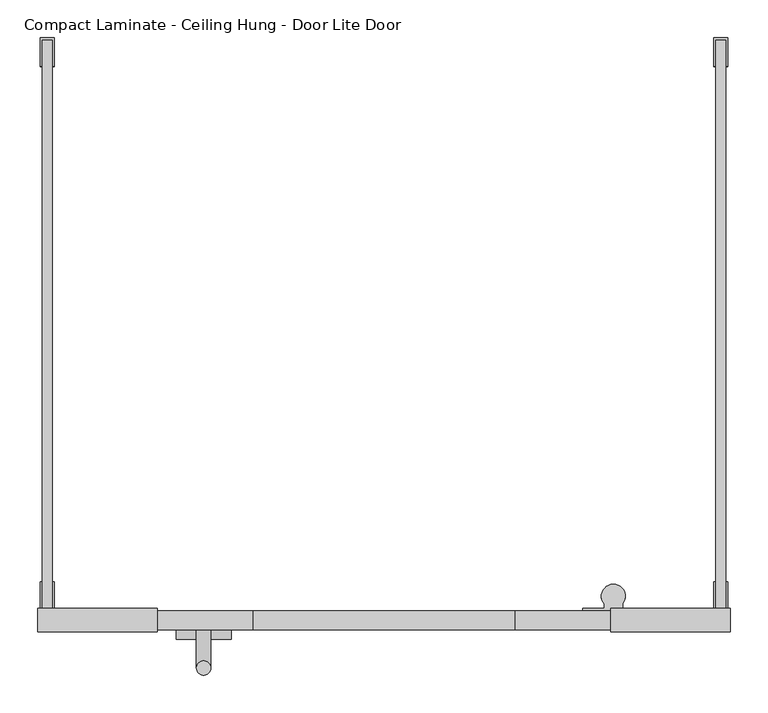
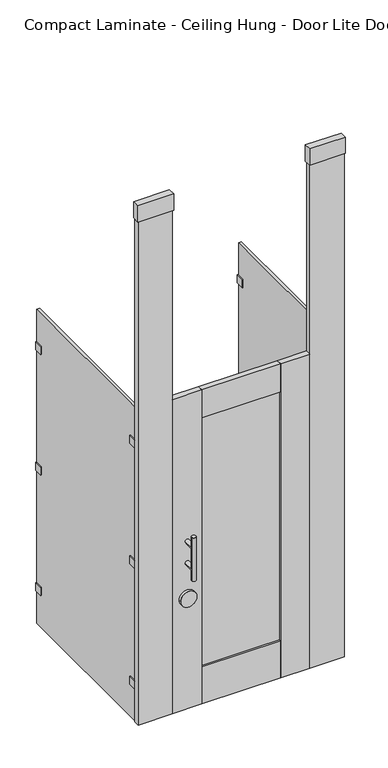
"""IFC4 building model written with IfcOpenShell, lengths in millimetres: proxy geometry, Toilet-Partition_Ironwood-Mfg_Compact-Laminate : Compact Laminate - Ceiling Hung - Door Lite Door."""

import ifcopenshell
import ifcopenshell.guid

model = None  # the IFC model being written
_history = None  # IfcOwnerHistory: only IFC2X3 demands one
_inside = {}  # id of a spatial element -> (the spatial element, [elements in it])
_under = {}  # id of a project, library or spatial element -> (it, [spatial elements below it])
_declared = {}  # id of a project -> (the project, [libraries it declares])
_typed = {}  # id of a type object -> (the type object, [elements of that type])
_made_of = {}  # id of a material, layer set ... -> (it, [elements and type objects made of it])


def new_model(schema):
    """Start an empty IFC model of exactly this schema.

    Asked for "IFC4X3", IfcOpenShell would pick the latest addendum, in which some entities
    have other attributes; the version numbers below select the first issue.
    IFC2X3 requires an IfcOwnerHistory on every rooted entity: one is made here for all.
    """
    global model, _history
    if schema == "IFC4X3":
        model = ifcopenshell.file(schema_version=(4, 3, 0, 0))
    else:
        model = ifcopenshell.file(schema=schema)
    _inside.clear()
    _under.clear()
    _declared.clear()
    _typed.clear()
    _made_of.clear()
    _history = None
    if model.schema == "IFC2X3":
        org = make("IfcOrganization", Name="unknown")
        user = make(
            "IfcPersonAndOrganization",
            ThePerson=make("IfcPerson", FamilyName="unknown"),
            TheOrganization=org,
        )
        app = make(
            "IfcApplication",
            ApplicationDeveloper=org,
            Version="unknown",
            ApplicationFullName="unknown",
            ApplicationIdentifier="unknown",
        )
        _history = make(
            "IfcOwnerHistory",
            OwningUser=user,
            OwningApplication=app,
            ChangeAction="ADDED",
            CreationDate=0,
        )
    return model


def make(cls, **values):
    """One entity of the class cls with the attributes given. An attribute that is None is left unset."""
    return model.create_entity(
        cls, **{name: value for name, value in values.items() if value is not None}
    )


def rooted(cls, **values):
    """An entity with a GlobalId (a new one), such as an element, a storey or a relation."""
    return make(cls, GlobalId=ifcopenshell.guid.new(), OwnerHistory=_history, **values)


def si_unit(unit_type, name, prefix=None):
    """IfcSIUnit, for example si_unit("LENGTHUNIT", "METRE", prefix="MILLI")."""
    return make("IfcSIUnit", UnitType=unit_type, Prefix=prefix, Name=name)


def assignment(units):
    """IfcUnitAssignment: the units of a project."""
    return None if units is None else make("IfcUnitAssignment", Units=units)


def point(xyz):
    """IfcCartesianPoint."""
    return None if xyz is None else make("IfcCartesianPoint", Coordinates=xyz)


def direction(xyz):
    """IfcDirection."""
    return None if xyz is None else make("IfcDirection", DirectionRatios=xyz)


def frame(location, z_axis=None, x_axis=None):
    """IfcAxis2Placement3D, a coordinate frame: its origin and axes. An axis left out is left unset."""
    return make(
        "IfcAxis2Placement3D",
        Location=point(location),
        Axis=direction(z_axis),
        RefDirection=direction(x_axis),
    )


def frame_2d(location, x_axis=None):
    """IfcAxis2Placement2D, a coordinate frame in the plane: its origin and x axis."""
    return make(
        "IfcAxis2Placement2D", Location=point(location), RefDirection=direction(x_axis)
    )


def origin():
    """The frame at (0, 0, 0) with its axes left unset."""
    return frame((0.0, 0.0, 0.0))


def place(relative_to, where):
    """IfcLocalPlacement: puts the frame where relative to a parent placement (None: the world)."""
    return make(
        "IfcLocalPlacement", PlacementRelTo=relative_to, RelativePlacement=where
    )


def context(
    kind, dimensions, precision=None, world=None, true_north=None, identifier=None
):
    """IfcGeometricRepresentationContext, for example the 3D "Model" context."""
    return make(
        "IfcGeometricRepresentationContext",
        ContextIdentifier=identifier,
        ContextType=kind,
        CoordinateSpaceDimension=dimensions,
        Precision=precision,
        WorldCoordinateSystem=world,
        TrueNorth=true_north,
    )


def project(units=None, contexts=None):
    """IfcProject with its units and contexts."""
    return rooted(
        "IfcProject",
        Name="project",
        RepresentationContexts=contexts,
        UnitsInContext=assignment(units),
    )


def spatial(cls, under=None, at=None, **own):
    """A site, building, storey or space (cls), placed at a placement, below another one or the project."""
    s = rooted(cls, ObjectPlacement=at, **own)
    if under is not None:
        _under.setdefault(under.id(), (under, []))[1].append(s)
    return s


def polyline(points):
    """IfcPolyline through the points."""
    return make("IfcPolyline", Points=[point(p) for p in points])


def circle_curve(where, radius):
    """IfcCircle in the frame where."""
    return make("IfcCircle", Position=where, Radius=radius)


def ellipse_curve(where, semi_axis1, semi_axis2):
    """IfcEllipse in the frame where."""
    return make(
        "IfcEllipse", Position=where, SemiAxis1=semi_axis1, SemiAxis2=semi_axis2
    )


def trimmed(basis, trim1, trim2, sense, master):
    """IfcTrimmedCurve: the piece of a basis curve between two trims."""
    return make(
        "IfcTrimmedCurve",
        BasisCurve=basis,
        Trim1=trim1,
        Trim2=trim2,
        SenseAgreement=sense,
        MasterRepresentation=master,
    )


def segment(curve, same_sense, transition):
    """IfcCompositeCurveSegment."""
    return make(
        "IfcCompositeCurveSegment",
        Transition=transition,
        SameSense=same_sense,
        ParentCurve=curve,
    )


def composite_curve(segments, self_intersect=None):
    """IfcCompositeCurve: segments joined end to end."""
    return make("IfcCompositeCurve", Segments=segments, SelfIntersect=self_intersect)


def outline(outer, holes=None, kind="AREA"):
    """IfcArbitraryClosedProfileDef: a profile drawn as a closed curve; with holes, ...WithVoids."""
    if holes is None:
        return make("IfcArbitraryClosedProfileDef", ProfileType=kind, OuterCurve=outer)
    return make(
        "IfcArbitraryProfileDefWithVoids",
        ProfileType=kind,
        OuterCurve=outer,
        InnerCurves=holes,
    )


def extrude(swept, where, along, depth):
    """IfcExtrudedAreaSolid: the profile swept, set in the frame where, extruded along a direction by depth."""
    return make(
        "IfcExtrudedAreaSolid",
        SweptArea=swept,
        Position=where,
        ExtrudedDirection=direction(along),
        Depth=depth,
    )


def shape(context_of_items, identifier, shape_type, items):
    """IfcShapeRepresentation: the items that make up one representation, for example the "Body"."""
    return make(
        "IfcShapeRepresentation",
        ContextOfItems=context_of_items,
        RepresentationIdentifier=identifier,
        RepresentationType=shape_type,
        Items=items,
    )


def source(mapping_origin, context_of_items, identifier, shape_type, items):
    """IfcRepresentationMap: a shape defined once, which mapped items show again and again."""
    return make(
        "IfcRepresentationMap",
        MappingOrigin=mapping_origin,
        MappedRepresentation=shape(context_of_items, identifier, shape_type, items),
    )


def transform(
    local_origin,
    x_axis=None,
    y_axis=None,
    z_axis=None,
    scale=None,
    scale2=None,
    scale3=None,
    uniform=True,
):
    """IfcCartesianTransformationOperator3D, or its non-uniform kind. x_axis, y_axis, z_axis: its Axis1, 2, 3."""
    if uniform:
        return make(
            "IfcCartesianTransformationOperator3D",
            Axis1=direction(x_axis),
            Axis2=direction(y_axis),
            LocalOrigin=point(local_origin),
            Scale=scale,
            Axis3=direction(z_axis),
        )
    return make(
        "IfcCartesianTransformationOperator3DnonUniform",
        Axis1=direction(x_axis),
        Axis2=direction(y_axis),
        LocalOrigin=point(local_origin),
        Scale=scale,
        Axis3=direction(z_axis),
        Scale2=scale2,
        Scale3=scale3,
    )


def mapped(mapping_source, mapping_target):
    """IfcMappedItem: shows the shape of a source again, moved by a transform."""
    return make(
        "IfcMappedItem", MappingSource=mapping_source, MappingTarget=mapping_target
    )


def made_of(thing, what):
    """Note that an element or type object is made of a material, layer set ...; save() writes the relation."""
    if what is not None:
        _made_of.setdefault(what.id(), (what, []))[1].append(thing)
    return thing


def element(
    cls,
    number,
    at=None,
    inside=None,
    cuts=None,
    type_object=None,
    material=None,
    context=None,
    identifier="Body",
    shape_type=None,
    held_by="IfcProductDefinitionShape",
    body=None,
    shapes=None,
    **own,
):
    """One element of the class cls, such as IfcWall. Its Tag is "e" and its number.

    at: its placement. inside: the storey or other place that contains it. cuts: it is an
    opening in that element (IfcRelVoidsElement). A single representation is given by context,
    identifier, shape_type and body (its items); several are given by shapes. held_by: the class
    of the entity that holds the representations. save() writes the other relations.
    """
    e = rooted(cls, Tag="e%d" % number, ObjectPlacement=at, **own)
    if body is not None:
        shapes = [shape(context, identifier, shape_type, body)]
    if shapes is not None:
        e.Representation = make(held_by, Representations=shapes)
    if inside is not None:
        _inside.setdefault(inside.id(), (inside, []))[1].append(e)
    if cuts is not None:
        rooted(
            "IfcRelVoidsElement", RelatingBuildingElement=cuts, RelatedOpeningElement=e
        )
    if type_object is not None:
        _typed.setdefault(type_object.id(), (type_object, []))[1].append(e)
    return made_of(e, material)


def aggregate(whole, parts):
    """IfcRelAggregates: a whole, such as a stair, and the parts it consists of."""
    return rooted("IfcRelAggregates", RelatingObject=whole, RelatedObjects=parts)


def save(model, path):
    """Write the relations noted so far, then the file.

    IfcRelAggregates (storeys below a building ...), IfcRelContainedInSpatialStructure (elements
    in a storey), IfcRelDefinesByType, IfcRelAssociatesMaterial and IfcRelDeclares: one each for
    every whole, place, type object, material and project.
    """
    for whole, parts in _under.values():
        aggregate(whole, parts)
    for where, things in _inside.values():
        rooted(
            "IfcRelContainedInSpatialStructure",
            RelatedElements=things,
            RelatingStructure=where,
        )
    for kind, things in _typed.values():
        rooted("IfcRelDefinesByType", RelatedObjects=things, RelatingType=kind)
    for what, things in _made_of.values():
        rooted("IfcRelAssociatesMaterial", RelatedObjects=things, RelatingMaterial=what)
    for by, libraries in _declared.values():
        rooted("IfcRelDeclares", RelatingContext=by, RelatedDefinitions=libraries)
    model.write(path)


def plane_surface(at):
    """IfcPlane: the flat surface through the origin of the frame at, square to its z axis."""
    return make("IfcPlane", Position=at)


def cylinder_surface(at, radius):
    """IfcCylindricalSurface: all points at the distance radius from the z axis of the frame at."""
    return make("IfcCylindricalSurface", Position=at, Radius=radius)


def advanced_brep(points, edges, surfaces, faces):
    """IfcAdvancedBrep: a solid bounded by faces that lie on surfaces and meet in shared edges.

    An edge is (start, end): straight between two places in points (the first is 0);
    or (start, end, curve); or (start, end, curve, False) where it runs against its curve.
    A face is (place in surfaces, loops), or (place, loops, False) where it looks against
    its surface's normal. A loop lists edges by number (the first is 1), with a minus sign
    where the edge is run from its end to its start. The first loop is the outer one.
    """
    corners = [point(p) for p in points]
    vertices = [make("IfcVertexPoint", VertexGeometry=c) for c in corners]
    made = []
    for start, end, *more in edges:
        made.append(
            make(
                "IfcEdgeCurve",
                EdgeStart=vertices[start],
                EdgeEnd=vertices[end],
                EdgeGeometry=more[0] if more else make("IfcPolyline", Points=[corners[start], corners[end]]),
                SameSense=more[1] if len(more) > 1 else True,
            )
        )
    hull = []
    for where, loops, *sense in faces:
        bounds = []
        for j, loop in enumerate(loops):
            ring = [make("IfcOrientedEdge", EdgeElement=made[abs(k) - 1], Orientation=k > 0) for k in loop]
            bounds.append(
                make(
                    "IfcFaceOuterBound" if j == 0 else "IfcFaceBound",
                    Bound=make("IfcEdgeLoop", EdgeList=ring),
                    Orientation=True,
                )
            )
        hull.append(make("IfcAdvancedFace", Bounds=bounds, FaceSurface=surfaces[where], SameSense=sense[0] if sense else True))
    return make("IfcAdvancedBrep", Outer=make("IfcClosedShell", CfsFaces=hull))


def compact_laminate_ceiling_hung_door_lite_door_494fc37a(model_context):
    return source(origin(), model_context, "Body", "SolidModel", [
        extrude(outline(polyline([(542.925, -790.575), (542.925, -758.825), (701.675, -758.825), (701.675, -790.575), (542.925, -790.575)])), frame((0.0, 0.0, 2667.0), z_axis=(0.0, 0.0, 1.0), x_axis=(1.0, 0.0, 0.0)), (0.0, 0.0, 1.0), 76.1999999),
        extrude(outline(polyline([(0.0, 152.4), (25.4, 152.4), (25.4, 0.0), (0.0, 0.0), (0.0, 152.4)])), frame((546.1, -762.0, 304.8), z_axis=(1.181277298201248e-12, 0.0, 1.0), x_axis=(0.0, -1.0, 0.0)), (0.0, 0.0, 1.0), 2362.2),
        extrude(outline(polyline([(-60.325, -790.575), (-219.075, -790.575), (-219.075, -758.825), (-60.325, -758.825), (-60.325, -790.575)])), frame((0.0, 0.0, 2667.0), z_axis=(0.0, 0.0, 1.0), x_axis=(1.0, 0.0, 0.0)), (0.0, 0.0, 1.0), 76.1999999),
        extrude(outline(polyline([(0.0, -152.4), (0.0, 0.0), (25.4, 0.0), (25.4, -152.4), (0.0, -152.4)])), frame((-63.5, -762.0, 304.8), z_axis=(-1.1812772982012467e-12, 0.0, 1.0), x_axis=(0.0, -1.0, 0.0)), (0.0, 0.0, 1.0), 2362.2),
        extrude(outline(polyline([(415.925, -779.4625), (66.675, -779.4625), (66.675, -769.9375), (415.925, -769.9375), (415.925, -779.4625)])), frame((0.0, 0.0, 479.425), z_axis=(0.0, 0.0, 1.0), x_axis=(1.0, 0.0, 0.0)), (0.0, 0.0, 1.0), 1168.4),
        extrude(outline(polyline([(66.675, -762.0), (66.675, -787.4), (-63.5, -787.4), (-63.5, -762.0), (66.675, -762.0)])), frame((0.0, 0.0, 304.8), z_axis=(0.0, 0.0, 1.0), x_axis=(1.0, 0.0, 0.0)), (0.0, 0.0, 1.0), 1473.2),
        extrude(outline(polyline([(415.925, -762.0), (546.1, -762.0), (546.1, -787.4), (415.925, -787.4), (415.925, -762.0)])), frame((0.0, 0.0, 304.8), z_axis=(0.0, 0.0, 1.0), x_axis=(1.0, 0.0, 0.0)), (0.0, 0.0, 1.0), 1473.2),
        extrude(outline(polyline([(415.925, -762.0), (415.925, -787.4), (66.675, -787.4), (66.675, -762.0), (415.925, -762.0)])), frame((0.0, 0.0, 1647.825), z_axis=(0.0, 0.0, 1.0), x_axis=(1.0, 0.0, 0.0)), (0.0, 0.0, 1.0), 130.175),
        extrude(outline(polyline([(415.925, -762.0), (415.925, -787.4), (66.675, -787.4), (66.675, -762.0), (415.925, -762.0)])), frame((0.0, 0.0, 304.8), z_axis=(0.0, 0.0, 1.0), x_axis=(1.0, 0.0, 0.0)), (0.0, 0.0, 1.0), 174.625),
        extrude(outline(composite_curve([segment(trimmed(circle_curve(frame_2d((827.0875, 1.5875)), 36.5125), [point((827.0875, -34.925))], [point((827.0875, 38.1))], False, "CARTESIAN"), True, "CONTINUOUS"), segment(trimmed(circle_curve(frame_2d((827.0875, 1.5875)), 36.5125), [point((827.0875, 38.1))], [point((827.0875, -34.925))], False, "CARTESIAN"), True, "CONTINUOUS")], self_intersect=False)), frame((0.0, -800.1, 0.0), z_axis=(0.0, 1.0, 0.0), x_axis=(0.0, 0.0, 1.0)), (0.0, 0.0, 1.0), 12.7),
        advanced_brep(
        [(-7.9375, -787.4, 1092.2), (11.1125, -787.4, 1092.2), (-7.9375, -787.4, 990.6), (11.1125, -787.4, 990.6), (11.1125, -838.2, 1092.2), (-7.9375, -838.2, 1092.2), (11.1125, -838.2, 990.6), (-7.9375, -838.2, 990.6), (-7.9375, -838.2, 1143.0), (11.1125, -838.2, 1143.0), (-7.9375, -838.2, 939.8), (11.1125, -838.2, 939.8)],
        [
            (0, 1, circle_curve(frame((1.5875, -787.4, 1092.2), z_axis=(0.0, 1.0, 0.0), x_axis=(1.0, 0.0, 0.0)), 9.525)),
            (1, 0, circle_curve(frame((1.5875, -787.4, 1092.2), z_axis=(0.0, 1.0, 0.0), x_axis=(1.0, 0.0, 0.0)), 9.525)),
            (2, 3, circle_curve(frame((1.5875, -787.4, 990.6), z_axis=(0.0, 1.0, 0.0), x_axis=(1.0, 0.0, 0.0)), 9.525)),
            (3, 2, circle_curve(frame((1.5875, -787.4, 990.6), z_axis=(0.0, 1.0, 0.0), x_axis=(1.0, 0.0, 0.0)), 9.525)),
            (1, 4),
            (4, 5, ellipse_curve(frame((1.5875, -838.2, 1092.2), z_axis=(0.0, 0.7071067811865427, 0.7071067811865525), x_axis=(0.0, -0.7071067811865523, 0.7071067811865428)), 13.4703842, 9.525)),
            (5, 0),
            (5, 4, ellipse_curve(frame((1.5875, -838.2, 1092.2), z_axis=(0.0, 0.7071067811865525, -0.7071067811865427), x_axis=(0.0, -0.7071067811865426, -0.7071067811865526)), 13.4703842, 9.525)),
            (3, 6),
            (6, 7, ellipse_curve(frame((1.5875, -838.2, 990.6), z_axis=(0.0, 0.7071067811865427, 0.7071067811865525), x_axis=(0.0, -0.7071067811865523, 0.7071067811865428)), 13.4703842, 9.525)),
            (7, 2),
            (7, 6, ellipse_curve(frame((1.5875, -838.2, 990.6), z_axis=(0.0, 0.7071067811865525, -0.7071067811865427), x_axis=(0.0, -0.7071067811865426, -0.7071067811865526)), 13.4703842, 9.525)),
            (8, 9, circle_curve(frame((1.5875, -838.2, 1143.0), z_axis=(0.0, 0.0, 1.0), x_axis=(1.0, 0.0, 0.0)), 9.525)),
            (9, 8, circle_curve(frame((1.5875, -838.2, 1143.0), z_axis=(0.0, 0.0, 1.0), x_axis=(1.0, 0.0, 0.0)), 9.525)),
            (10, 11, circle_curve(frame((1.5875, -838.2, 939.8), z_axis=(0.0, 0.0, -1.0), x_axis=(1.0, 0.0, 0.0)), 9.525)),
            (11, 10, circle_curve(frame((1.5875, -838.2, 939.8), z_axis=(0.0, 0.0, -1.0), x_axis=(1.0, 0.0, 0.0)), 9.525)),
            (8, 5),
            (5, 7),
            (7, 10),
            (11, 6),
            (6, 4),
            (4, 9),
        ],
        [
            plane_surface(frame((11.1125, -787.4, 1092.2), z_axis=(0.0, 1.0, 0.0), x_axis=(0.0, 0.0, -1.0))),
            cylinder_surface(frame((1.5875, -787.4, 1092.2), z_axis=(0.0, -1.0, 0.0), x_axis=(1.0, 0.0, 0.0)), 9.525),
            cylinder_surface(frame((1.5875, -787.4, 990.6), z_axis=(0.0, -1.0, 0.0), x_axis=(1.0, 0.0, 0.0)), 9.525),
            plane_surface(frame((11.1125, -838.2, 1143.0), z_axis=(0.0, 0.0, 1.0), x_axis=(0.0, 1.0, 0.0))),
            plane_surface(frame((11.1125, -838.2, 939.8), z_axis=(0.0, 0.0, -1.0), x_axis=(0.0, -1.0, 0.0))),
            cylinder_surface(frame((1.5875, -838.2, 939.8), z_axis=(0.0, 0.0, 1.0), x_axis=(1.0, 0.0, 0.0)), 9.525),
        ],
        [
            (0, [[1, 2]]),
            (0, [[3, 4]]),
            (1, [[-2, 5, 6, 7]]),
            (1, [[-1, -7, 8, -5]]),
            (2, [[-4, 9, 10, 11]]),
            (2, [[-3, -11, 12, -9]]),
            (3, [[13, 14]]),
            (4, [[15, 16]]),
            (5, [[-13, 17, 18, 19, -16, 20, 21, 22]]),
            (5, [[-14, -22, -8, -17]]),
            (5, [[-15, -19, -10, -20]]),
            (5, [[-18, -6, -21, -12]]),
        ],
    ),
        extrude(outline(composite_curve([segment(polyline([(581.3737081, -762.0), (505.1737081, -762.0), (505.1737081, -758.825), (533.7487081, -758.825), (533.7487081, -752.9581331)]), True, "CONTINUOUS"), segment(trimmed(circle_curve(frame_2d((546.1, -742.8902139)), 15.9347861), [point((533.7487081, -752.9581331))], [point((558.4512919, -752.9581331))], False, "CARTESIAN"), True, "CONTINUOUS"), segment(polyline([(558.4512919, -752.9581331), (558.4512919, -758.825), (581.3737081, -758.825), (581.3737081, -762.0)]), True, "CONTINUOUS")], self_intersect=False)), frame((0.0, 0.0, 1574.8), z_axis=(0.0, 0.0, 1.0), x_axis=(1.0, 0.0, 0.0)), (0.0, 0.0, 1.0), 63.5),
        extrude(outline(composite_curve([segment(polyline([(581.3737081, -762.0), (505.1737081, -762.0), (505.1737081, -758.825), (533.7487081, -758.825), (533.7487081, -752.9581331)]), True, "CONTINUOUS"), segment(trimmed(circle_curve(frame_2d((546.1, -742.8902139)), 15.9347861), [point((533.7487081, -752.9581331))], [point((558.4512919, -752.9581331))], False, "CARTESIAN"), True, "CONTINUOUS"), segment(polyline([(558.4512919, -752.9581331), (558.4512919, -758.825), (581.3737081, -758.825), (581.3737081, -762.0)]), True, "CONTINUOUS")], self_intersect=False)), frame((0.0, 0.0, 1009.6500001), z_axis=(0.0, 0.0, 1.0), x_axis=(1.0, 0.0, 0.0)), (0.0, 0.0, 1.0), 63.5),
        extrude(outline(composite_curve([segment(polyline([(581.3737081, -762.0), (505.1737081, -762.0), (505.1737081, -758.825), (533.7487081, -758.825), (533.7487081, -752.9581331)]), True, "CONTINUOUS"), segment(trimmed(circle_curve(frame_2d((546.1, -742.8902139)), 15.9347861), [point((533.7487081, -752.9581331))], [point((558.4512919, -752.9581331))], False, "CARTESIAN"), True, "CONTINUOUS"), segment(polyline([(558.4512919, -752.9581331), (558.4512919, -758.825), (581.3737081, -758.825), (581.3737081, -762.0)]), True, "CONTINUOUS")], self_intersect=False)), frame((0.0, 0.0, 444.5), z_axis=(0.0, 0.0, 1.0), x_axis=(1.0, 0.0, 0.0)), (0.0, 0.0, 1.0), 63.5),
        extrude(outline(polyline([(682.498, -723.9), (682.498, -758.825), (695.198, -758.825), (695.198, -723.9), (698.373, -723.9), (698.373, -762.0), (679.323, -762.0), (679.323, -723.9), (682.498, -723.9)])), frame((0.0, 0.0, 1587.8188137), z_axis=(0.0, 0.0, 1.0), x_axis=(1.0, 0.0, 0.0)), (0.0, 0.0, 1.0), 38.1),
        extrude(outline(polyline([(682.498, -38.1), (679.323, -38.1), (679.323, 0.0), (698.373, 0.0), (698.373, -38.1), (695.198, -38.1), (695.198, -3.175), (682.498, -3.175), (682.498, -38.1)])), frame((0.0, 0.0, 1587.8188137), z_axis=(0.0, 0.0, 1.0), x_axis=(1.0, 0.0, 0.0)), (0.0, 0.0, 1.0), 38.1),
        extrude(outline(polyline([(682.498, -723.9), (682.498, -758.825), (695.198, -758.825), (695.198, -723.9), (698.373, -723.9), (698.373, -762.0), (679.323, -762.0), (679.323, -723.9), (682.498, -723.9)])), frame((0.0, 0.0, 1022.35), z_axis=(0.0, 0.0, 1.0), x_axis=(1.0, 0.0, 0.0)), (0.0, 0.0, 1.0), 38.1),
        extrude(outline(polyline([(682.498, -38.1), (679.323, -38.1), (679.323, 0.0), (698.373, 0.0), (698.373, -38.1), (695.198, -38.1), (695.198, -3.175), (682.498, -3.175), (682.498, -38.1)])), frame((0.0, 0.0, 1022.35), z_axis=(0.0, 0.0, 1.0), x_axis=(1.0, 0.0, 0.0)), (0.0, 0.0, 1.0), 38.1),
        extrude(outline(polyline([(682.498, -723.9), (682.498, -758.825), (695.198, -758.825), (695.198, -723.9), (698.373, -723.9), (698.373, -762.0), (679.323, -762.0), (679.323, -723.9), (682.498, -723.9)])), frame((0.0, 0.0, 457.2), z_axis=(0.0, 0.0, 1.0), x_axis=(1.0, 0.0, 0.0)), (0.0, 0.0, 1.0), 38.1),
        extrude(outline(polyline([(682.498, -38.1), (679.323, -38.1), (679.323, 0.0), (698.373, 0.0), (698.373, -38.1), (695.198, -38.1), (695.198, -3.175), (682.498, -3.175), (682.498, -38.1)])), frame((0.0, 0.0, 457.2), z_axis=(0.0, 0.0, 1.0), x_axis=(1.0, 0.0, 0.0)), (0.0, 0.0, 1.0), 38.1),
        extrude(outline(polyline([(-212.598, -723.9), (-212.598, -758.825), (-199.898, -758.825), (-199.898, -723.9), (-196.723, -723.9), (-196.723, -762.0), (-215.773, -762.0), (-215.773, -723.9), (-212.598, -723.9)])), frame((0.0, 0.0, 1587.8188137), z_axis=(0.0, 0.0, 1.0), x_axis=(1.0, 0.0, 0.0)), (0.0, 0.0, 1.0), 38.1),
        extrude(outline(polyline([(-212.598, -38.1), (-215.773, -38.1), (-215.773, 0.0), (-196.723, 0.0), (-196.723, -38.1), (-199.898, -38.1), (-199.898, -3.175), (-212.598, -3.175), (-212.598, -38.1)])), frame((0.0, 0.0, 1587.8188137), z_axis=(0.0, 0.0, 1.0), x_axis=(1.0, 0.0, 0.0)), (0.0, 0.0, 1.0), 38.1),
        extrude(outline(polyline([(-212.598, -723.9), (-212.598, -758.825), (-199.898, -758.825), (-199.898, -723.9), (-196.723, -723.9), (-196.723, -762.0), (-215.773, -762.0), (-215.773, -723.9), (-212.598, -723.9)])), frame((0.0, 0.0, 1022.35), z_axis=(0.0, 0.0, 1.0), x_axis=(1.0, 0.0, 0.0)), (0.0, 0.0, 1.0), 38.1),
        extrude(outline(polyline([(-212.598, -38.1), (-215.773, -38.1), (-215.773, 0.0), (-196.723, 0.0), (-196.723, -38.1), (-199.898, -38.1), (-199.898, -3.175), (-212.598, -3.175), (-212.598, -38.1)])), frame((0.0, 0.0, 1022.35), z_axis=(0.0, 0.0, 1.0), x_axis=(1.0, 0.0, 0.0)), (0.0, 0.0, 1.0), 38.1),
        extrude(outline(polyline([(-212.598, -723.9), (-212.598, -758.825), (-199.898, -758.825), (-199.898, -723.9), (-196.723, -723.9), (-196.723, -762.0), (-215.773, -762.0), (-215.773, -723.9), (-212.598, -723.9)])), frame((0.0, 0.0, 457.2), z_axis=(0.0, 0.0, 1.0), x_axis=(1.0, 0.0, 0.0)), (0.0, 0.0, 1.0), 38.1),
        extrude(outline(polyline([(-212.598, -38.1), (-215.773, -38.1), (-215.773, 0.0), (-196.723, 0.0), (-196.723, -38.1), (-199.898, -38.1), (-199.898, -3.175), (-212.598, -3.175), (-212.598, -38.1)])), frame((0.0, 0.0, 457.2), z_axis=(0.0, 0.0, 1.0), x_axis=(1.0, 0.0, 0.0)), (0.0, 0.0, 1.0), 38.1),
        extrude(outline(polyline([(-199.898, -3.175), (-199.898, -758.825), (-212.598, -758.825), (-212.598, -3.175), (-199.898, -3.175)])), frame((0.0, 0.0, 304.8), z_axis=(0.0, 0.0, 1.0), x_axis=(1.0, 0.0, 0.0)), (0.0, 0.0, 1.0), 1473.2),
        extrude(outline(polyline([(695.198, -3.175), (695.198, -758.825), (682.498, -758.825), (682.498, -3.175), (695.198, -3.175)])), frame((0.0, 0.0, 304.8), z_axis=(0.0, 0.0, 1.0), x_axis=(1.0, 0.0, 0.0)), (0.0, 0.0, 1.0), 1473.2),
    ])


if __name__ == "__main__":
    model = new_model("IFC4")
    model_context = context("Model", 3, world=origin())
    ifc_project = project(units=[si_unit("LENGTHUNIT", "METRE", prefix="MILLI")], contexts=[model_context])
    site = spatial("IfcSite", under=ifc_project)
    building = spatial("IfcBuilding", under=site)
    placement = place(None, origin())
    compact_laminate_ceiling_hung_door_lite_door_shape = compact_laminate_ceiling_hung_door_lite_door_494fc37a(model_context)
    element("IfcBuildingElementProxy", 1, Name="Toilet-Partition_Ironwood-Mfg_Compact-Laminate : Compact Laminate - Ceiling Hung - Door Lite Door", ObjectType="Toilet-Partition_Ironwood-Mfg_Compact-Laminate : Compact Laminate - Ceiling Hung - Door Lite Door", at=placement, inside=building, context=model_context, shape_type="MappedRepresentation", body=[
        mapped(compact_laminate_ceiling_hung_door_lite_door_shape, transform((0.0, 0.0, 0.0), x_axis=(1.0, 0.0, 0.0), y_axis=(0.0, 1.0, 0.0), z_axis=(0.0, 0.0, 1.0))),
    ])
    save(model, "model.ifc")
